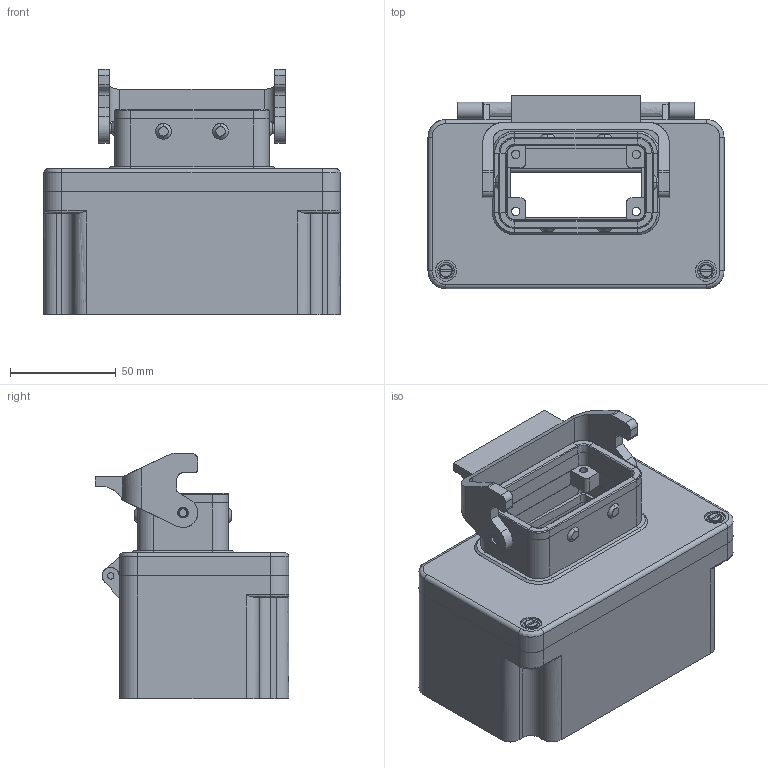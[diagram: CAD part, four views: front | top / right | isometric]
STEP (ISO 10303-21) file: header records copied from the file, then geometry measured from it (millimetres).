
FILE_DESCRIPTION( ( 'STEP AP214' ), '1' );
FILE_NAME( 'C:/Dokumente und Einstellungen/Administrator/Desktop/47 Kabelboxen/G1/3/gr_1_10e-b.stp', '2006-09-10T09:46:17', ( ' ' ), ( ' ' ), 'XStep 1.0', 'VISICAD', ' ' );
FILE_SCHEMA( ( 'automotive_design' ) );
Length unit declared in the file: millimetre
Products named in the file (849): 1; 2; 3; 4; 5; 6; 7; 8; 9; 10; 11; 12; 13; 14; 15; 16; 17; 18; 19; 20; 21; 22; 23; 24; 25; 26; 27; 28; 29; 30; 31; 32; 33; 34; 35; 36; 37; 38; 39; 40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
Bounding box: 140 x 91.5 x 115.9 mm (x, y, z)
Surface area: 123765.9 mm2 (no closed solid volume)
Topology: 0 solids, 849 shells, 849 faces, 4285 edges, 4285 vertices
Faces by surface type: plane 386, bspline 246, revolution 198, cylinder 19
Entity records: 95222 total; most frequent: CARTESIAN_POINT 44475, DIRECTION 6045, ORIENTED_EDGE 4285, EDGE_CURVE 4285, VERTEX_POINT 4285, LINE 2357, VECTOR 2357, AXIS2_PLACEMENT_3D 1745
